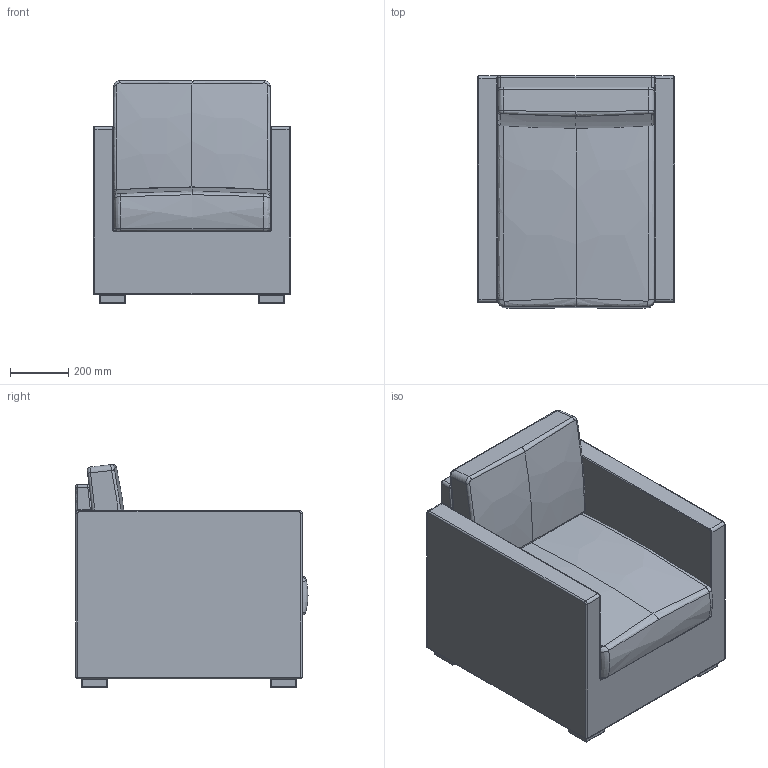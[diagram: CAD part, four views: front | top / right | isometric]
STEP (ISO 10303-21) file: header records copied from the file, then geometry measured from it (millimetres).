
FILE_DESCRIPTION(/* description */ (''),/* implementation_level */ '2;1');
FILE_NAME(/* name */ 'KINOSH~1',/* time_stamp */ '2019-07-19T09:39:15+09:00',/* author */ (''),/* organization */ (''),/* preprocessor_version */ 'ST-DEVELOPER v15',/* originating_system */ '',/* authorisation */ '');
FILE_SCHEMA (('AUTOMOTIVE_DESIGN'));
Length unit declared in the file: millimetre
Products named in the file (1): Document
Bounding box: 680 x 799.99 x 768.5 mm (x, y, z)
Volume: 968655.4 mm3; surface area: 5058100.4 mm2
Topology: 4 solids, 7 shells, 246 faces, 554 edges, 296 vertices
Faces by surface type: bspline 200, plane 46
Entity records: 17624 total; most frequent: CARTESIAN_POINT 14577, ORIENTED_EDGE 1056, EDGE_CURVE 538, VERTEX_POINT 296, ADVANCED_FACE 246, FACE_OUTER_BOUND 246, EDGE_LOOP 246, B_SPLINE_CURVE_WITH_KNOTS 231
